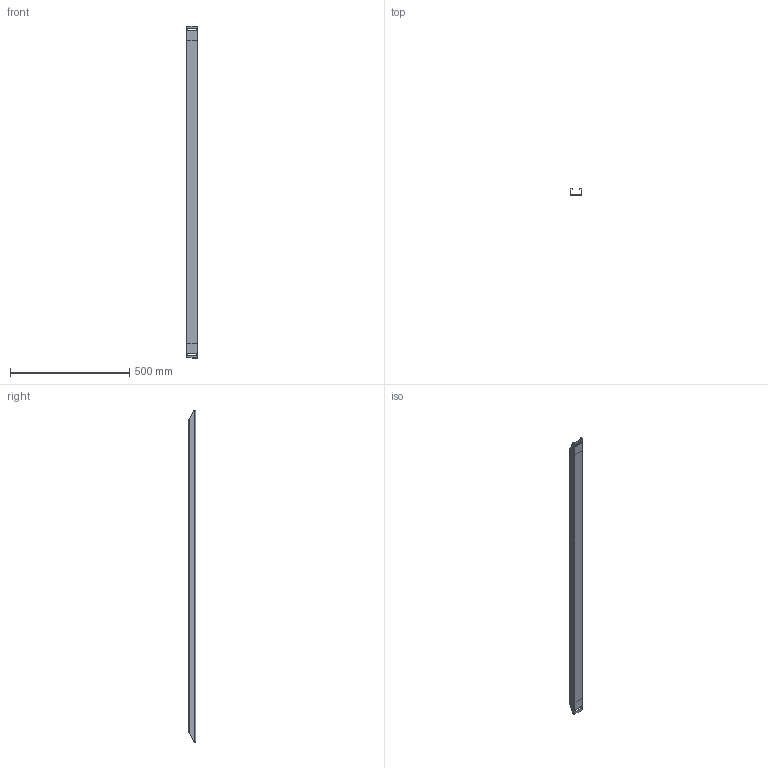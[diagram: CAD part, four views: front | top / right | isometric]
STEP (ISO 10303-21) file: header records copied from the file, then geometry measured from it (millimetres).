
FILE_DESCRIPTION (( 'STEP AP203' ), '1' );
FILE_NAME ('WTST-001400.STEP', '2017-06-12T14:57:50', ( '' ), ( '' ), 'SwSTEP 2.0', 'SolidWorks 2017', '' );
FILE_SCHEMA (( 'CONFIG_CONTROL_DESIGN' ));
Length unit declared in the file: millimetre
Products named in the file (1): WTST-001400
Bounding box: 50 x 30 x 1394 mm (x, y, z)
Volume: 397962.3 mm3; surface area: 326114.3 mm2
Topology: 1 solids, 1 shells, 52 faces, 118 edges, 68 vertices
Faces by surface type: plane 36, cylinder 12, bspline 4
Entity records: 1599 total; most frequent: CARTESIAN_POINT 395, ORIENTED_EDGE 236, DIRECTION 216, EDGE_CURVE 118, VECTOR 86, LINE 86, VERTEX_POINT 68, AXIS2_PLACEMENT_3D 65
